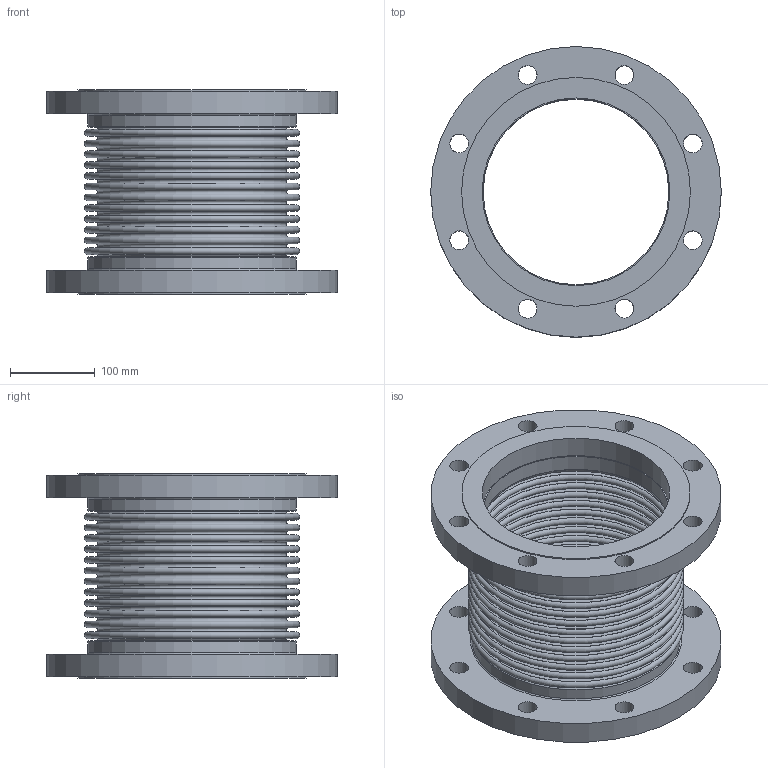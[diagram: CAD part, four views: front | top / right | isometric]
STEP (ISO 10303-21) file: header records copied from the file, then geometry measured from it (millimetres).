
FILE_DESCRIPTION(/* description */ ('EXPANSION JOINT,SINGLE, FLANGED ENDS,8 INCH NOMINAL','CAx-IF Rec.Pracs.---Representation and Presentation of Product Manufacturing Information (PMI)---4.0---2014-10-13'),/* implementation_level */ '2;1');
FILE_NAME(/* name */ 'US-08-12-300L-FLANGED ENDS.stp',/* time_stamp */ '2026-07-31T17:12:19-05:00',/* author */ ('Guadalupe'),/* organization */ (''),/* preprocessor_version */ 'ST-DEVELOPER v20.1',/* originating_system */ 'Autodesk Inventor 2026',/* authorisation */ '');
FILE_SCHEMA (('AP242_MANAGED_MODEL_BASED_3D_ENGINEERING_MIM_LF { 1 0 10303 442 2 1 4 }'));
Length unit declared in the file: inch
Products named in the file (3): 08-300L; 08-300L-02; 08-300L-01
Assembly tree (3 placements, depth 2):
  08-300L
    08-300L-02  x2
    08-300L-01
Bounding box: 342.9 x 342.9 x 241.3 mm (x, y, z)
Volume: 3649518.6 mm3; surface area: 1135053.2 mm2
Topology: 5 solids, 5 shells, 144 faces, 246 edges, 164 vertices
Faces by surface type: plane 62, torus 54, cylinder 28
Full cylindrical faces by diameter (mm): 22.225 x16, 219.075 x2, 221.488 x2, 222.123 x2, 246.126 x2, 270.002 x2, 342.9 x2
Entity records: 3294 total; most frequent: DIRECTION 682, CARTESIAN_POINT 489, ORIENTED_EDGE 408, AXIS2_PLACEMENT_3D 333, EDGE_CURVE 204, EDGE_LOOP 200, CIRCLE 188, VERTEX_POINT 136
